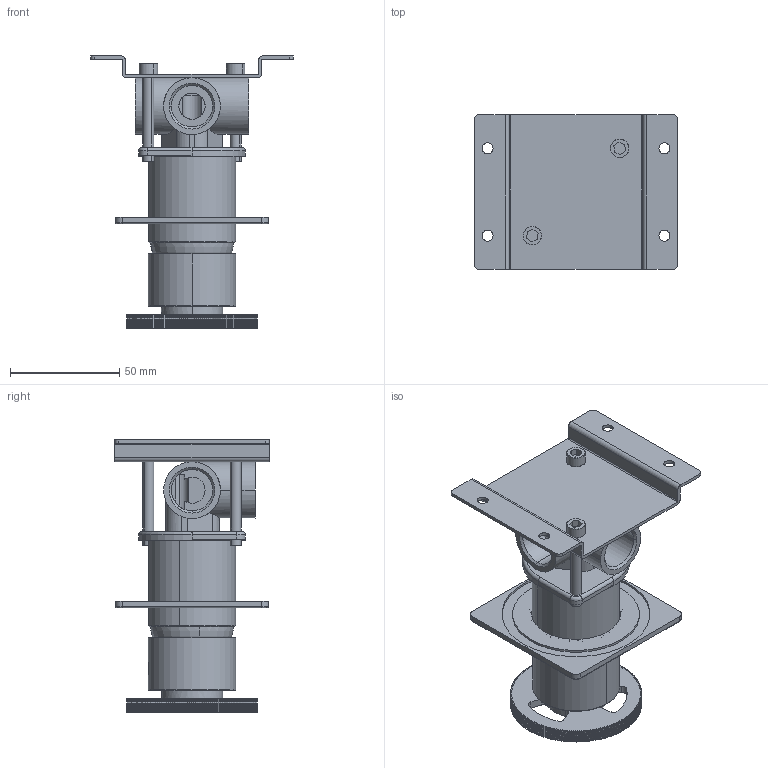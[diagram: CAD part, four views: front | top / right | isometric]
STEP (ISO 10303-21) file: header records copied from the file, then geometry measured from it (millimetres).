
FILE_DESCRIPTION (( 'STEP AP203' ), '1' );
FILE_NAME ('ED2O.STEP', '2023-12-04T09:45:28', ( '' ), ( '' ), 'SwSTEP 2.0', 'SolidWorks 2021', '' );
FILE_SCHEMA (( 'CONFIG_CONTROL_DESIGN' ));
Length unit declared in the file: millimetre
Products named in the file (18): C12.00.0036; C11.14.0015; C10.00.0011; C24.2668.00; C47.00.0015; C24.2665.00; C47.00.0023.01; C11.14.0009; C11.10.0022; C24.1464.00.1; C24.2669.00; C25.1721.00.0; ED2O; C25.1081.00.0_DefaultSviluppo; AS1073; C50.00.0038.00; C31.00.0006.01; C24.1837.00.0
Assembly tree (18 placements, depth 3):
  ED2O
    C10.00.0011
    C50.00.0038.00
    C47.00.0015
    C25.1081.00.0_DefaultSviluppo
    C11.10.0022  x2
    C24.1837.00.0
    C31.00.0006.01
    C24.2665.00
    C12.00.0036
    AS1073
      C24.2669.00
      C11.14.0009
      C47.00.0023.01
      C24.2668.00
      C11.14.0015
      C25.1721.00.0
      C24.1464.00.1
Bounding box: 93 x 71 x 124.7 mm (x, y, z)
Volume: 130016.9 mm3; surface area: 87355.8 mm2
Topology: 17 solids, 17 shells, 1108 faces, 2979 edges, 1931 vertices
Faces by surface type: plane 578, cylinder 409, cone 75, torus 40, bspline 6
Entity records: 37000 total; most frequent: CARTESIAN_POINT 6954, DIRECTION 6025, ORIENTED_EDGE 5862, EDGE_CURVE 2931, AXIS2_PLACEMENT_3D 2073, VERTEX_POINT 1905, VECTOR 1879, LINE 1879
